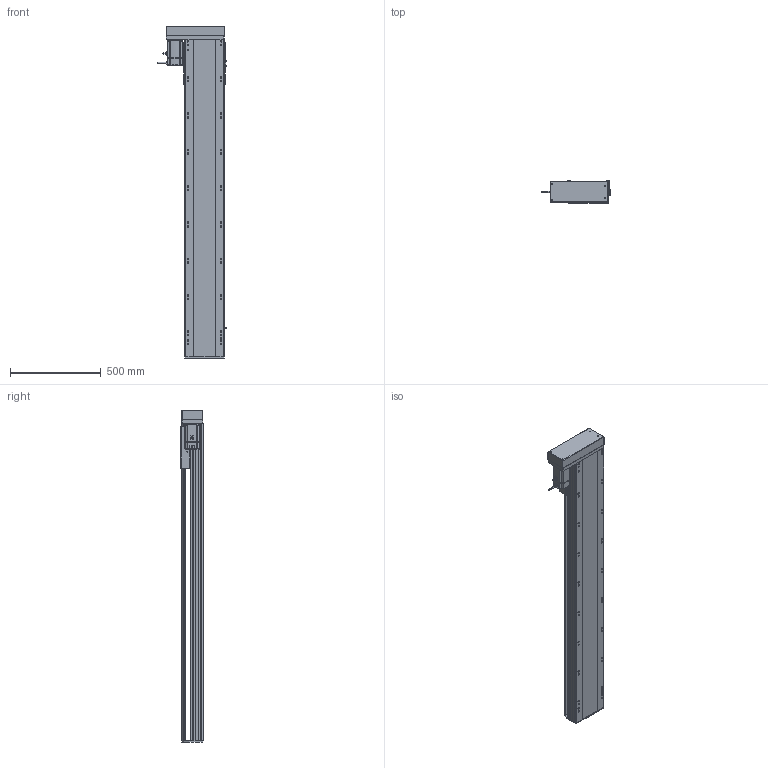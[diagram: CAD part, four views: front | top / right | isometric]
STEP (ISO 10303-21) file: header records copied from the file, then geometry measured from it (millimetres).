
FILE_DESCRIPTION (( 'STEP AP214' ), '1' );
FILE_NAME ('RTH22-XX-1450-R-M75-C4.STEP', '2025-10-25T03:15:42', ( 'Microsoft' ), ( 'Microsoft' ), 'SwSTEP 2.0', 'SolidWorks 2018', '' );
FILE_SCHEMA (( 'AUTOMOTIVE_DESIGN' ));
Length unit declared in the file: millimetre
Products named in the file (10): N_RTH22-R-008-P75萇儂啣^RTH22-XX-XX-R-M75-C4; RTH22-XX-1450-R-M75-C4; N_RTH22-L-007奻裔^RTH22-XX-XX-R-M75-C4; N_750W萇儂^RTH22-XX-XX-R-M75-C4; N_RTH22-L-011菁釱^RTH22-XX-XX-R-M75-C4; N_OMRON EE-SX672 传感器^RTH22-XX-XX-R-M75-C4; N_RTH22-GY-001耜裔^RTH22-XX-XX-R-M75-C4; N_RTH22-GY-013外置感应片^RTH22-XX-XX-R-M75-C4; N_RTH22-L-018裔赽^RTH22-XX-XX-R-M75-C4; N_RTH22-L-004-SFS25賑釱^RTH22-XX-XX-R-M75-C4
Assembly tree (11 placements, depth 2):
  RTH22-XX-1450-R-M75-C4
    N_RTH22-L-011菁釱^RTH22-XX-XX-R-M75-C4
    N_RTH22-GY-001耜裔^RTH22-XX-XX-R-M75-C4
    N_750W萇儂^RTH22-XX-XX-R-M75-C4
    N_RTH22-R-008-P75萇儂啣^RTH22-XX-XX-R-M75-C4
    N_RTH22-L-007奻裔^RTH22-XX-XX-R-M75-C4
    N_OMRON EE-SX672 传感器^RTH22-XX-XX-R-M75-C4  x3
    N_RTH22-GY-013外置感应片^RTH22-XX-XX-R-M75-C4
    N_RTH22-L-004-SFS25賑釱^RTH22-XX-XX-R-M75-C4
    N_RTH22-L-018裔赽^RTH22-XX-XX-R-M75-C4
Bounding box: 384.7 x 122 x 1829.7 mm (x, y, z)
Volume: 24176416 mm3; surface area: 2637175.3 mm2
Topology: 11 solids, 11 shells, 1646 faces, 4497 edges, 2893 vertices
Faces by surface type: plane 799, cylinder 498, bspline 279, cone 70
Entity records: 41941 total; most frequent: CARTESIAN_POINT 12646, ORIENTED_EDGE 5946, DIRECTION 5659, EDGE_CURVE 2973, VERTEX_POINT 1929, AXIS2_PLACEMENT_3D 1926, LINE 1807, VECTOR 1807
